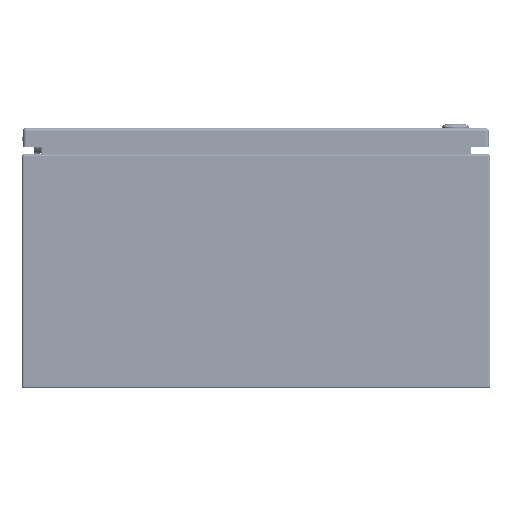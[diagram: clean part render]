
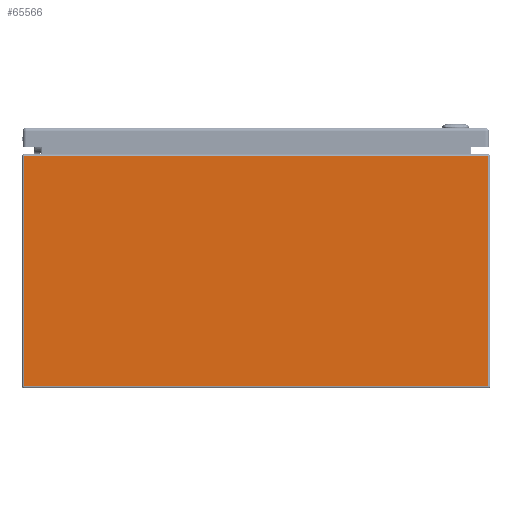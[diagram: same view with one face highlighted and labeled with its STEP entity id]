
A CAD part, front view. The second image highlights one B-rep face of the part: STEP entity #65566.
In plain terms, the highlighted planar face has unit normal (0, -1, 0).
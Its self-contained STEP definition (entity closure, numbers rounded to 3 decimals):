
#6100=LINE('',#92702,#10246);
#6107=LINE('',#92717,#10253);
#6109=LINE('',#92724,#10255);
#6111=LINE('',#92733,#10257);
#10246=VECTOR('',#76638,0.394);
#10253=VECTOR('',#76651,0.394);
#10255=VECTOR('',#76659,0.394);
#10257=VECTOR('',#76671,0.394);
#15486=FACE_OUTER_BOUND('',#19574,.T.);
#19574=EDGE_LOOP('',(#43669,#43670,#43671,#43672));
#26454=VERTEX_POINT('',#92672);
#26461=VERTEX_POINT('',#92698);
#26466=VERTEX_POINT('',#92716);
#26468=VERTEX_POINT('',#92722);
#33068=EDGE_CURVE('',#26454,#26461,#6100,.T.);
#33075=EDGE_CURVE('',#26461,#26466,#6107,.T.);
#33079=EDGE_CURVE('',#26468,#26454,#6109,.T.);
#33084=EDGE_CURVE('',#26468,#26466,#6111,.T.);
#43669=ORIENTED_EDGE('',*,*,#33068,.F.);
#43670=ORIENTED_EDGE('',*,*,#33079,.F.);
#43671=ORIENTED_EDGE('',*,*,#33084,.T.);
#43672=ORIENTED_EDGE('',*,*,#33075,.F.);
#64133=PLANE('',#70554);
#65566=ADVANCED_FACE('',(#15486),#64133,.F.);
#70554=AXIS2_PLACEMENT_3D('',#92744,#76685,#76686);
#76638=DIRECTION('',(1.,0.,0.));
#76651=DIRECTION('',(0.,0.,-1.));
#76659=DIRECTION('',(0.,0.,1.));
#76671=DIRECTION('',(1.,0.,0.));
#76685=DIRECTION('center_axis',(0.,1.,0.));
#76686=DIRECTION('ref_axis',(0.,0.,1.));
#92672=CARTESIAN_POINT('',(-9.916,-12.,9.916));
#92698=CARTESIAN_POINT('',(9.916,-12.,9.916));
#92702=CARTESIAN_POINT('',(4.979,-12.,9.916));
#92716=CARTESIAN_POINT('',(9.916,-12.,0.084));
#92717=CARTESIAN_POINT('',(9.916,-12.,5.));
#92722=CARTESIAN_POINT('',(-9.916,-12.,0.084));
#92724=CARTESIAN_POINT('',(-9.916,-12.,5.));
#92733=CARTESIAN_POINT('',(-4.958,-12.,0.084));
#92744=CARTESIAN_POINT('Origin',(0.,-12.,5.));
